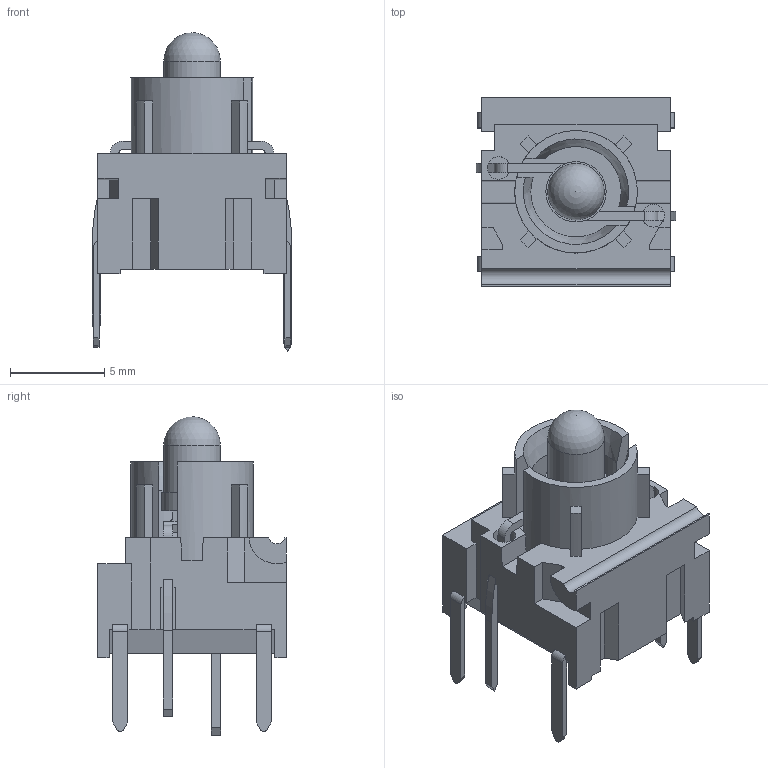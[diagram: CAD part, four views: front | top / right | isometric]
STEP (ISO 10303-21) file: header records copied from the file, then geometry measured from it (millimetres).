
FILE_DESCRIPTION((''),'2;1');
FILE_NAME('F:\STEP-Filer\3F\3FTH9XX.stp','2008-09-12T07:37:54',('fd'),(''),'Autodesk Inventor 2009','Autodesk Inventor 2009','');
FILE_SCHEMA(('AUTOMOTIVE_DESIGN { 1 0 10303 214 1 1 1 1 }'));
Length unit declared in the file: millimetre
Products named in the file (1): 3FTH9XX
Bounding box: 10.61 x 10 x 16.9 mm (x, y, z)
Volume: 626.5 mm3; surface area: 827.6 mm2
Topology: 1 solids, 1 shells, 226 faces, 649 edges, 427 vertices
Faces by surface type: plane 180, cylinder 43, cone 2, sphere 1
Full cylindrical faces by diameter (mm): 1.2 x2, 3 x1, 3.2 x1, 6.5 x1
Entity records: 7302 total; most frequent: CARTESIAN_POINT 1295, ORIENTED_EDGE 1276, DIRECTION 1208, EDGE_CURVE 638, VECTOR 514, LINE 514, VERTEX_POINT 422, AXIS2_PLACEMENT_3D 347
